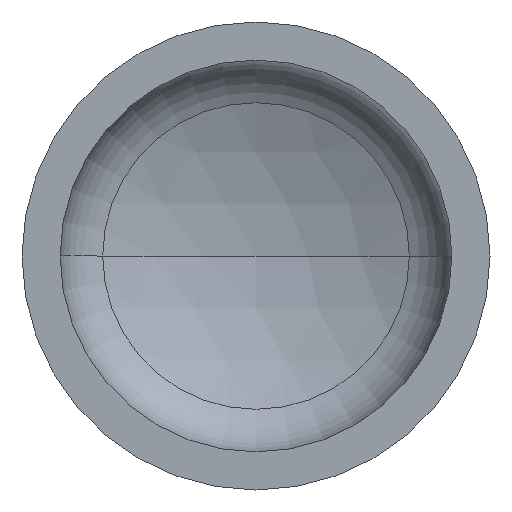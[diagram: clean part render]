
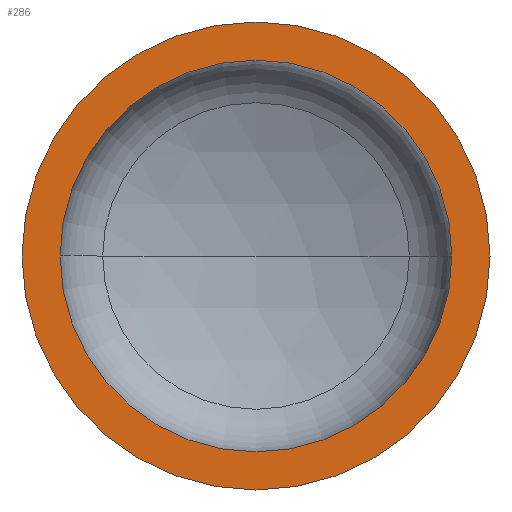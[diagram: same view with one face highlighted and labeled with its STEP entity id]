
A CAD part, front view. The second image highlights one B-rep face of the part: STEP entity #286.
In plain terms, the highlighted planar face has unit normal (0, -1, 0).
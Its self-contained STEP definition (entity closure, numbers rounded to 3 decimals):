
#11 = EDGE_LOOP ( 'NONE', ( #16, #314 ) ) ;
#16 = ORIENTED_EDGE ( 'NONE', *, *, #383, .T. ) ;
#21 = AXIS2_PLACEMENT_3D ( 'NONE', #77, #395, #177 ) ;
#22 = ORIENTED_EDGE ( 'NONE', *, *, #133, .F. ) ;
#28 = AXIS2_PLACEMENT_3D ( 'NONE', #404, #354, #222 ) ;
#43 = EDGE_LOOP ( 'NONE', ( #22, #89 ) ) ;
#45 = VERTEX_POINT ( 'NONE', #253 ) ;
#77 = CARTESIAN_POINT ( 'NONE',  ( -650., 0., 0. ) ) ;
#89 = ORIENTED_EDGE ( 'NONE', *, *, #327, .F. ) ;
#95 = VERTEX_POINT ( 'NONE', #247 ) ;
#108 = AXIS2_PLACEMENT_3D ( 'NONE', #238, #360, #366 ) ;
#110 = AXIS2_PLACEMENT_3D ( 'NONE', #332, #331, #349 ) ;
#117 = VERTEX_POINT ( 'NONE', #282 ) ;
#123 = VERTEX_POINT ( 'NONE', #287 ) ;
#127 = EDGE_CURVE ( 'NONE', #95, #123, #370, .T. ) ;
#133 = EDGE_CURVE ( 'NONE', #117, #45, #188, .T. ) ;
#163 = FACE_BOUND ( 'NONE', #43, .T. ) ;
#165 = FACE_OUTER_BOUND ( 'NONE', #11, .T. ) ;
#177 = DIRECTION ( 'NONE',  ( -1., 0., 0. ) ) ;
#187 = AXIS2_PLACEMENT_3D ( 'NONE', #319, #407, #271 ) ;
#188 = CIRCLE ( 'NONE', #108, 544. ) ;
#222 = DIRECTION ( 'NONE',  ( 1., 0., 0. ) ) ;
#238 = CARTESIAN_POINT ( 'NONE',  ( 0., 0., 0. ) ) ;
#247 = CARTESIAN_POINT ( 'NONE',  ( -650., 0., 0. ) ) ;
#253 = CARTESIAN_POINT ( 'NONE',  ( -544., 0., 0. ) ) ;
#271 = DIRECTION ( 'NONE',  ( 1., 0., 0. ) ) ;
#275 = CIRCLE ( 'NONE', #28, 544. ) ;
#282 = CARTESIAN_POINT ( 'NONE',  ( 544., 0., 0. ) ) ;
#286 = ADVANCED_FACE ( 'NONE', ( #163, #165 ), #398, .F. ) ;
#287 = CARTESIAN_POINT ( 'NONE',  ( 650., 0., 0. ) ) ;
#314 = ORIENTED_EDGE ( 'NONE', *, *, #127, .T. ) ;
#319 = CARTESIAN_POINT ( 'NONE',  ( 0., 0., 0. ) ) ;
#322 = CIRCLE ( 'NONE', #187, 650. ) ;
#327 = EDGE_CURVE ( 'NONE', #45, #117, #275, .T. ) ;
#331 = DIRECTION ( 'NONE',  ( 0., -1., 0. ) ) ;
#332 = CARTESIAN_POINT ( 'NONE',  ( 0., 0., 0. ) ) ;
#349 = DIRECTION ( 'NONE',  ( 1., 0., 0. ) ) ;
#354 = DIRECTION ( 'NONE',  ( 0., -1., 0. ) ) ;
#360 = DIRECTION ( 'NONE',  ( 0., -1., 0. ) ) ;
#366 = DIRECTION ( 'NONE',  ( 1., 0., 0. ) ) ;
#370 = CIRCLE ( 'NONE', #110, 650. ) ;
#383 = EDGE_CURVE ( 'NONE', #123, #95, #322, .T. ) ;
#395 = DIRECTION ( 'NONE',  ( 0., 1., 0. ) ) ;
#398 = PLANE ( 'NONE',  #21 ) ;
#404 = CARTESIAN_POINT ( 'NONE',  ( 0., 0., 0. ) ) ;
#407 = DIRECTION ( 'NONE',  ( 0., -1., 0. ) ) ;
